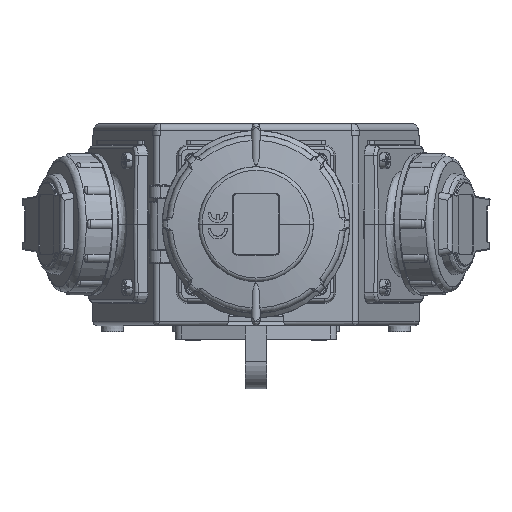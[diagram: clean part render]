
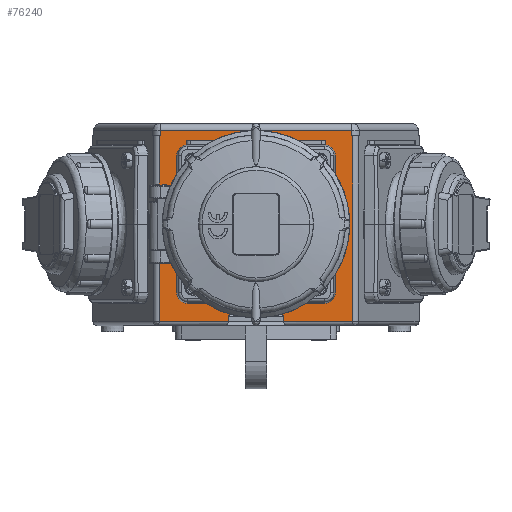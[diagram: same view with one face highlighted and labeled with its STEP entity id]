
A CAD part, front view. The second image highlights one B-rep face of the part: STEP entity #76240.
In plain terms, the highlighted planar face has unit normal (0, -1, 0).
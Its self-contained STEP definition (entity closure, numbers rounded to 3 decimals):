
#13639=DIRECTION('',(0.,0.,1.));
#13640=VECTOR('',#13639,2.5);
#13641=CARTESIAN_POINT('',(13.,-66.06,-46.));
#13642=LINE('3245',#13641,#13640);
#13646=DIRECTION('',(1.,0.,0.));
#13647=VECTOR('',#13646,26.);
#13648=CARTESIAN_POINT('',(-13.,-66.06,-43.5));
#13649=LINE('3247',#13648,#13647);
#13653=DIRECTION('',(0.,0.,1.));
#13654=VECTOR('',#13653,2.5);
#13655=CARTESIAN_POINT('',(-13.,-66.06,-46.));
#13656=LINE('3246',#13655,#13654);
#13660=DIRECTION('',(-1.,0.,0.));
#13661=VECTOR('',#13660,32.82);
#13662=CARTESIAN_POINT('',(-13.,-66.06,-46.));
#13663=LINE('3257',#13662,#13661);
#13667=DIRECTION('',(0.,0.,1.));
#13668=VECTOR('',#13667,87.8);
#13669=CARTESIAN_POINT('',(-45.82,-66.06,
-46.));
#13670=LINE('2465',#13669,#13668);
#13674=DIRECTION('',(0.,0.,-1.));
#13675=VECTOR('',#13674,2.7);
#13676=CARTESIAN_POINT('',(-45.094,-66.06,44.5));
#13677=LINE('2846',#13676,#13675);
#13681=DIRECTION('',(1.,0.,0.));
#13682=VECTOR('',#13681,90.187);
#13683=CARTESIAN_POINT('',(-45.094,-66.06,44.5));
#13684=LINE('2789',#13683,#13682);
#13688=DIRECTION('',(0.,0.,-1.));
#13689=VECTOR('',#13688,2.7);
#13690=CARTESIAN_POINT('',(45.094,-66.06,44.5));
#13691=LINE('2847',#13690,#13689);
#13695=DIRECTION('',(-1.,0.,0.));
#13696=VECTOR('',#13695,32.82);
#13697=CARTESIAN_POINT('',(45.82,-66.06,
-46.));
#13698=LINE('3256',#13697,#13696);
#13702=DIRECTION('',(0.,0.,-1.));
#13703=VECTOR('',#13702,2.);
#13704=CARTESIAN_POINT('',(-33.,-66.06,39.7));
#13705=LINE('2198',#13704,#13703);
#13709=DIRECTION('',(1.,0.,0.));
#13710=VECTOR('',#13709,66.);
#13711=CARTESIAN_POINT('',(-33.,-66.06,37.7));
#13712=LINE('2199',#13711,#13710);
#13716=DIRECTION('',(0.,0.,1.));
#13717=VECTOR('',#13716,2.);
#13718=CARTESIAN_POINT('',(33.,-66.06,37.7));
#13719=LINE('2200',#13718,#13717);
#13723=DIRECTION('',(-1.,0.,0.));
#13724=VECTOR('',#13723,66.);
#13725=CARTESIAN_POINT('',(33.,-66.06,39.7));
#13726=LINE('2201',#13725,#13724);
#13730=CARTESIAN_POINT('',(0.,-66.06,0.));
#13731=DIRECTION('',(0.,-1.,0.));
#13732=DIRECTION('',(0.993,0.,0.121));
#13733=AXIS2_PLACEMENT_3D('',#13730,#13731,#13732);
#13738=DIRECTION('',(1.,0.,0.));
#13739=VECTOR('',#13738,0.663);
#13740=CARTESIAN_POINT('',(28.712,-66.06,-3.5));
#13741=LINE('5312',#13740,#13739);
#13745=CARTESIAN_POINT('',(29.375,-66.06,0.));
#13746=DIRECTION('',(0.,-1.,0.));
#13747=DIRECTION('',(0.,0.,-1.));
#13748=AXIS2_PLACEMENT_3D('',#13745,#13746,#13747);
#13753=DIRECTION('',(-1.,0.,0.));
#13754=VECTOR('',#13753,0.663);
#13755=CARTESIAN_POINT('',(29.375,-66.06,3.5));
#13756=LINE('5314',#13755,#13754);
#13760=CARTESIAN_POINT('',(30.,-66.06,30.));
#13761=DIRECTION('',(0.,-1.,0.));
#13762=DIRECTION('',(0.,0.,1.));
#13763=AXIS2_PLACEMENT_3D('',#13760,#13761,#13762);
#13768=CARTESIAN_POINT('',(30.,-66.06,30.));
#13769=DIRECTION('',(0.,-1.,0.));
#13770=DIRECTION('',(0.,0.,-1.));
#13771=AXIS2_PLACEMENT_3D('',#13768,#13769,#13770);
#13776=CARTESIAN_POINT('',(-30.,-66.06,30.));
#13777=DIRECTION('',(0.,-1.,0.));
#13778=DIRECTION('',(0.,0.,1.));
#13779=AXIS2_PLACEMENT_3D('',#13776,#13777,#13778);
#13784=CARTESIAN_POINT('',(-30.,-66.06,30.));
#13785=DIRECTION('',(0.,-1.,0.));
#13786=DIRECTION('',(0.,0.,-1.));
#13787=AXIS2_PLACEMENT_3D('',#13784,#13785,#13786);
#13792=CARTESIAN_POINT('',(-30.,-66.06,-30.));
#13793=DIRECTION('',(0.,-1.,0.));
#13794=DIRECTION('',(0.,0.,1.));
#13795=AXIS2_PLACEMENT_3D('',#13792,#13793,#13794);
#13800=CARTESIAN_POINT('',(-30.,-66.06,-30.));
#13801=DIRECTION('',(0.,-1.,0.));
#13802=DIRECTION('',(0.,0.,-1.));
#13803=AXIS2_PLACEMENT_3D('',#13800,#13801,#13802);
#13808=CARTESIAN_POINT('',(30.,-66.06,-30.));
#13809=DIRECTION('',(0.,-1.,0.));
#13810=DIRECTION('',(0.,0.,1.));
#13811=AXIS2_PLACEMENT_3D('',#13808,#13809,#13810);
#13816=CARTESIAN_POINT('',(30.,-66.06,-30.));
#13817=DIRECTION('',(0.,-1.,0.));
#13818=DIRECTION('',(0.,0.,-1.));
#13819=AXIS2_PLACEMENT_3D('',#13816,#13817,#13818);
#16787=DIRECTION('',(1.,0.,0.));
#16788=VECTOR('',#16787,0.727);
#16789=CARTESIAN_POINT('',(45.094,-66.06,41.8));
#16790=LINE('2828',#16789,#16788);
#17060=DIRECTION('',(1.,0.,0.));
#17061=VECTOR('',#17060,0.727);
#17062=CARTESIAN_POINT('',(-45.82,-66.06,41.8));
#17063=LINE('2827',#17062,#17061);
#36919=DIRECTION('',(0.,0.,1.));
#36920=VECTOR('',#36919,87.8);
#36921=CARTESIAN_POINT('',(45.82,-66.06,
-46.));
#36922=LINE('2466',#36921,#36920);
#52449=CARTESIAN_POINT('',(45.82,-66.06,-46.));
#52450=VERTEX_POINT('',#52449);
#52451=CARTESIAN_POINT('',(-45.82,-66.06,-46.));
#52452=VERTEX_POINT('',#52451);
#52525=CARTESIAN_POINT('',(-33.,-66.06,39.7));
#52526=CARTESIAN_POINT('',(-33.,-66.06,37.7));
#52527=VERTEX_POINT('',#52525);
#52528=VERTEX_POINT('',#52526);
#52529=CARTESIAN_POINT('',(33.,-66.06,37.7));
#52530=VERTEX_POINT('',#52529);
#52531=CARTESIAN_POINT('',(33.,-66.06,39.7));
#52532=VERTEX_POINT('',#52531);
#52821=CARTESIAN_POINT('',(-45.82,-66.06,41.8));
#52823=VERTEX_POINT('',#52821);
#52824=CARTESIAN_POINT('',(45.82,-66.06,41.8));
#52826=VERTEX_POINT('',#52824);
#53232=CARTESIAN_POINT('',(-45.094,-66.06,44.5));
#53233=VERTEX_POINT('',#53232);
#53236=CARTESIAN_POINT('',(45.094,-66.06,44.5));
#53237=VERTEX_POINT('',#53236);
#53282=CARTESIAN_POINT('',(-45.094,-66.06,41.8));
#53284=VERTEX_POINT('',#53282);
#53287=CARTESIAN_POINT('',(45.094,-66.06,41.8));
#53289=VERTEX_POINT('',#53287);
#53722=CARTESIAN_POINT('',(13.,-66.06,-46.));
#53723=CARTESIAN_POINT('',(13.,-66.06,-43.5));
#53724=VERTEX_POINT('',#53722);
#53725=VERTEX_POINT('',#53723);
#53726=CARTESIAN_POINT('',(-13.,-66.06,-46.));
#53727=CARTESIAN_POINT('',(-13.,-66.06,-43.5));
#53728=VERTEX_POINT('',#53726);
#53729=VERTEX_POINT('',#53727);
#55932=CARTESIAN_POINT('',(28.712,-66.06,3.5));
#55933=CARTESIAN_POINT('',(28.712,-66.06,-3.5));
#55934=VERTEX_POINT('',#55932);
#55935=VERTEX_POINT('',#55933);
#55936=CARTESIAN_POINT('',(29.375,-66.06,-3.5));
#55937=VERTEX_POINT('',#55936);
#55938=CARTESIAN_POINT('',(29.375,-66.06,3.5));
#55939=VERTEX_POINT('',#55938);
#57882=CARTESIAN_POINT('',(30.,-66.06,32.5));
#57883=CARTESIAN_POINT('',(30.,-66.06,27.5));
#57884=VERTEX_POINT('',#57882);
#57885=VERTEX_POINT('',#57883);
#57972=CARTESIAN_POINT('',(-30.,-66.06,32.5));
#57973=CARTESIAN_POINT('',(-30.,-66.06,27.5));
#57974=VERTEX_POINT('',#57972);
#57975=VERTEX_POINT('',#57973);
#58062=CARTESIAN_POINT('',(-30.,-66.06,-27.5));
#58063=CARTESIAN_POINT('',(-30.,-66.06,-32.5));
#58064=VERTEX_POINT('',#58062);
#58065=VERTEX_POINT('',#58063);
#58152=CARTESIAN_POINT('',(30.,-66.06,-27.5));
#58153=CARTESIAN_POINT('',(30.,-66.06,-32.5));
#58154=VERTEX_POINT('',#58152);
#58155=VERTEX_POINT('',#58153);
#76166=CARTESIAN_POINT('',(48.,-66.06,40.5));
#76167=DIRECTION('',(0.,-1.,0.));
#76168=DIRECTION('',(-1.,0.,0.));
#76169=AXIS2_PLACEMENT_3D('',#76166,#76167,#76168);
#76170=PLANE('30',#76169);
#76172=ORIENTED_EDGE('3245',*,*,#76171,.T.);
#76174=ORIENTED_EDGE('3247',*,*,#76173,.F.);
#76176=ORIENTED_EDGE('3246',*,*,#76175,.F.);
#76178=ORIENTED_EDGE('3257',*,*,#76177,.T.);
#76180=ORIENTED_EDGE('2465',*,*,#76179,.T.);
#76182=ORIENTED_EDGE('2827',*,*,#76181,.T.);
#76184=ORIENTED_EDGE('2846',*,*,#76183,.F.);
#76186=ORIENTED_EDGE('2789',*,*,#76185,.T.);
#76188=ORIENTED_EDGE('2847',*,*,#76187,.T.);
#76190=ORIENTED_EDGE('2828',*,*,#76189,.T.);
#76192=ORIENTED_EDGE('2466',*,*,#76191,.F.);
#76194=ORIENTED_EDGE('3256',*,*,#76193,.T.);
#76195=EDGE_LOOP('30',(#76172,#76174,#76176,#76178,#76180,#76182,#76184,#76186,
#76188,#76190,#76192,#76194));
#76196=FACE_OUTER_BOUND('30',#76195,.F.);
#76198=ORIENTED_EDGE('2198',*,*,#76197,.T.);
#76200=ORIENTED_EDGE('2199',*,*,#76199,.T.);
#76202=ORIENTED_EDGE('2200',*,*,#76201,.T.);
#76204=ORIENTED_EDGE('2201',*,*,#76203,.T.);
#76205=EDGE_LOOP('30',(#76198,#76200,#76202,#76204));
#76206=FACE_BOUND('30',#76205,.F.);
#76208=ORIENTED_EDGE('5311',*,*,#76207,.T.);
#76210=ORIENTED_EDGE('5312',*,*,#76209,.T.);
#76212=ORIENTED_EDGE('5313',*,*,#76211,.T.);
#76214=ORIENTED_EDGE('5314',*,*,#76213,.T.);
#76215=EDGE_LOOP('30',(#76208,#76210,#76212,#76214));
#76216=FACE_BOUND('30',#76215,.F.);
#76218=ORIENTED_EDGE('7168',*,*,#76217,.T.);
#76220=ORIENTED_EDGE('7169',*,*,#76219,.T.);
#76221=EDGE_LOOP('30',(#76218,#76220));
#76222=FACE_BOUND('30',#76221,.F.);
#76224=ORIENTED_EDGE('7247',*,*,#76223,.T.);
#76226=ORIENTED_EDGE('7248',*,*,#76225,.T.);
#76227=EDGE_LOOP('30',(#76224,#76226));
#76228=FACE_BOUND('30',#76227,.F.);
#76230=ORIENTED_EDGE('7326',*,*,#76229,.T.);
#76231=ORIENTED_EDGE('7327',*,*,#76144,.T.);
#76232=EDGE_LOOP('30',(#76230,#76231));
#76233=FACE_BOUND('30',#76232,.F.);
#76235=ORIENTED_EDGE('7405',*,*,#76234,.T.);
#76237=ORIENTED_EDGE('7406',*,*,#76236,.T.);
#76238=EDGE_LOOP('30',(#76235,#76237));
#76239=FACE_BOUND('30',#76238,.F.);
#13734=CIRCLE('5311',#13733,28.925);
#13749=CIRCLE('5313',#13748,3.5);
#13764=CIRCLE('7168',#13763,2.5);
#13772=CIRCLE('7169',#13771,2.5);
#13780=CIRCLE('7247',#13779,2.5);
#13788=CIRCLE('7248',#13787,2.5);
#13796=CIRCLE('7326',#13795,2.5);
#13804=CIRCLE('7327',#13803,2.5);
#13812=CIRCLE('7405',#13811,2.5);
#13820=CIRCLE('7406',#13819,2.5);
#76144=EDGE_CURVE('7327',#58065,#58064,#13804,.T.);
#76171=EDGE_CURVE('3245',#53724,#53725,#13642,.T.);
#76173=EDGE_CURVE('3247',#53729,#53725,#13649,.T.);
#76175=EDGE_CURVE('3246',#53728,#53729,#13656,.T.);
#76177=EDGE_CURVE('3257',#53728,#52452,#13663,.T.);
#76179=EDGE_CURVE('2465',#52452,#52823,#13670,.T.);
#76181=EDGE_CURVE('2827',#52823,#53284,#17063,.T.);
#76183=EDGE_CURVE('2846',#53233,#53284,#13677,.T.);
#76185=EDGE_CURVE('2789',#53233,#53237,#13684,.T.);
#76187=EDGE_CURVE('2847',#53237,#53289,#13691,.T.);
#76189=EDGE_CURVE('2828',#53289,#52826,#16790,.T.);
#76191=EDGE_CURVE('2466',#52450,#52826,#36922,.T.);
#76193=EDGE_CURVE('3256',#52450,#53724,#13698,.T.);
#76197=EDGE_CURVE('2198',#52527,#52528,#13705,.T.);
#76199=EDGE_CURVE('2199',#52528,#52530,#13712,.T.);
#76201=EDGE_CURVE('2200',#52530,#52532,#13719,.T.);
#76203=EDGE_CURVE('2201',#52532,#52527,#13726,.T.);
#76207=EDGE_CURVE('5311',#55934,#55935,#13734,.T.);
#76209=EDGE_CURVE('5312',#55935,#55937,#13741,.T.);
#76211=EDGE_CURVE('5313',#55937,#55939,#13749,.T.);
#76213=EDGE_CURVE('5314',#55939,#55934,#13756,.T.);
#76217=EDGE_CURVE('7168',#57884,#57885,#13764,.T.);
#76219=EDGE_CURVE('7169',#57885,#57884,#13772,.T.);
#76223=EDGE_CURVE('7247',#57974,#57975,#13780,.T.);
#76225=EDGE_CURVE('7248',#57975,#57974,#13788,.T.);
#76229=EDGE_CURVE('7326',#58064,#58065,#13796,.T.);
#76234=EDGE_CURVE('7405',#58154,#58155,#13812,.T.);
#76236=EDGE_CURVE('7406',#58155,#58154,#13820,.T.);
#76240=ADVANCED_FACE('30',(#76196,#76206,#76216,#76222,#76228,#76233,#76239),
#76170,.T.);
